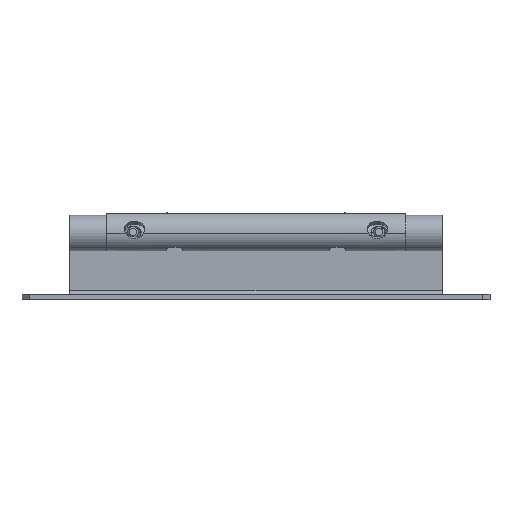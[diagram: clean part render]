
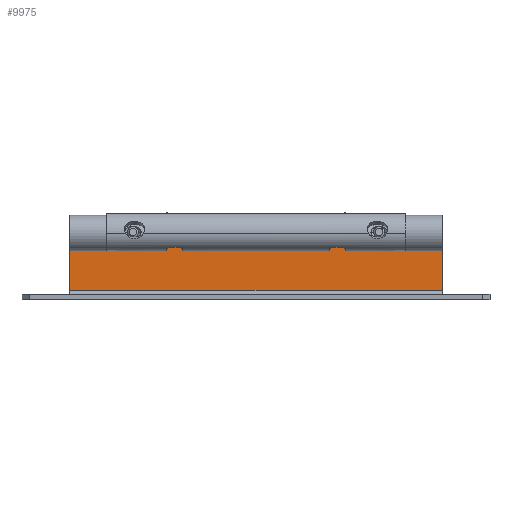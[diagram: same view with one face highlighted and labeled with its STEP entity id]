
A CAD part, left-side view. The second image highlights one B-rep face of the part: STEP entity #9975.
In plain terms, the highlighted planar face has unit normal (-1, 0, 0).
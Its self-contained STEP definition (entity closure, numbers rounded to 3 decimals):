
#97 = PLANE ( 'NONE',  #11088 ) ;
#207 = DIRECTION ( 'NONE',  ( 0., 1., 0. ) ) ;
#277 = CARTESIAN_POINT ( 'NONE',  ( -1.5, 0., 14.06 ) ) ;
#284 = ORIENTED_EDGE ( 'NONE', *, *, #6906, .T. ) ;
#597 = EDGE_CURVE ( 'NONE', #7717, #4073, #5027, .T. ) ;
#790 = CARTESIAN_POINT ( 'NONE',  ( -1.5, -50.15, -1.68 ) ) ;
#851 = VECTOR ( 'NONE', #8247, 1000. ) ;
#1071 = VERTEX_POINT ( 'NONE', #7370 ) ;
#1075 = DIRECTION ( 'NONE',  ( 0., 0., -1. ) ) ;
#2530 = ORIENTED_EDGE ( 'NONE', *, *, #597, .T. ) ;
#2985 = VECTOR ( 'NONE', #6732, 1000. ) ;
#3023 = DIRECTION ( 'NONE',  ( 1., 0., 0. ) ) ;
#3039 = ORIENTED_EDGE ( 'NONE', *, *, #10017, .F. ) ;
#3883 = EDGE_CURVE ( 'NONE', #7717, #10429, #10408, .T. ) ;
#4073 = VERTEX_POINT ( 'NONE', #8683 ) ;
#5027 = LINE ( 'NONE', #6992, #2985 ) ;
#5677 = FACE_OUTER_BOUND ( 'NONE', #10564, .T. ) ;
#6573 = ORIENTED_EDGE ( 'NONE', *, *, #3883, .F. ) ;
#6595 = CARTESIAN_POINT ( 'NONE',  ( -1.5, -33.062, -1.68 ) ) ;
#6596 = LINE ( 'NONE', #277, #11879 ) ;
#6732 = DIRECTION ( 'NONE',  ( 0., 0., 1. ) ) ;
#6906 = EDGE_CURVE ( 'NONE', #1071, #10429, #8188, .T. ) ;
#6992 = CARTESIAN_POINT ( 'NONE',  ( -1.5, -50.15, 6.1 ) ) ;
#7370 = CARTESIAN_POINT ( 'NONE',  ( -1.5, 50.15, 14.06 ) ) ;
#7629 = CARTESIAN_POINT ( 'NONE',  ( -1.5, -33.062, -2.68 ) ) ;
#7717 = VERTEX_POINT ( 'NONE', #790 ) ;
#7807 = VECTOR ( 'NONE', #207, 1000. ) ;
#8188 = LINE ( 'NONE', #12079, #851 ) ;
#8247 = DIRECTION ( 'NONE',  ( 0., 0., -1. ) ) ;
#8609 = DIRECTION ( 'NONE',  ( 0., -1., 0. ) ) ;
#8683 = CARTESIAN_POINT ( 'NONE',  ( -1.5, -50.15, 14.06 ) ) ;
#9370 = CARTESIAN_POINT ( 'NONE',  ( -1.5, 50.15, -1.68 ) ) ;
#9975 = ADVANCED_FACE ( 'NONE', ( #5677 ), #97, .F. ) ;
#10017 = EDGE_CURVE ( 'NONE', #1071, #4073, #6596, .T. ) ;
#10408 = LINE ( 'NONE', #6595, #7807 ) ;
#10429 = VERTEX_POINT ( 'NONE', #9370 ) ;
#10564 = EDGE_LOOP ( 'NONE', ( #2530, #3039, #284, #6573 ) ) ;
#11088 = AXIS2_PLACEMENT_3D ( 'NONE', #7629, #3023, #1075 ) ;
#11879 = VECTOR ( 'NONE', #8609, 1000. ) ;
#12079 = CARTESIAN_POINT ( 'NONE',  ( -1.5, 50.15, 6.1 ) ) ;
